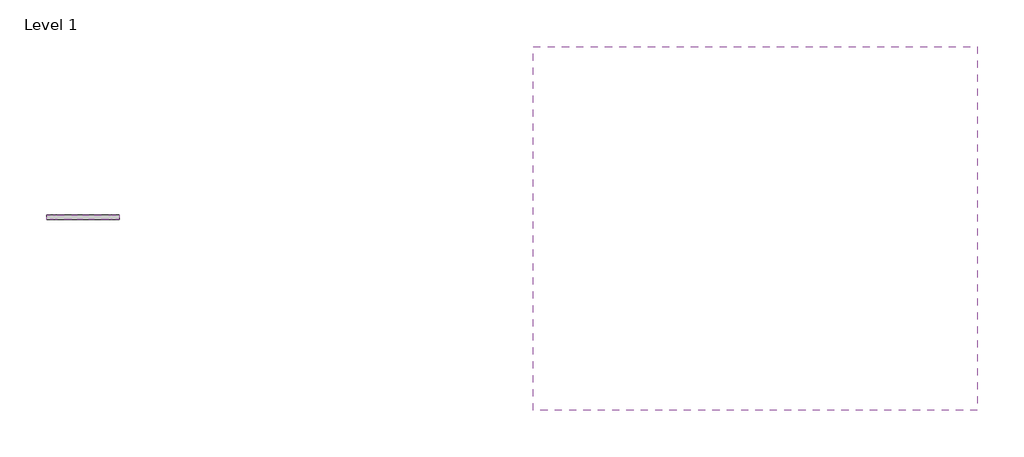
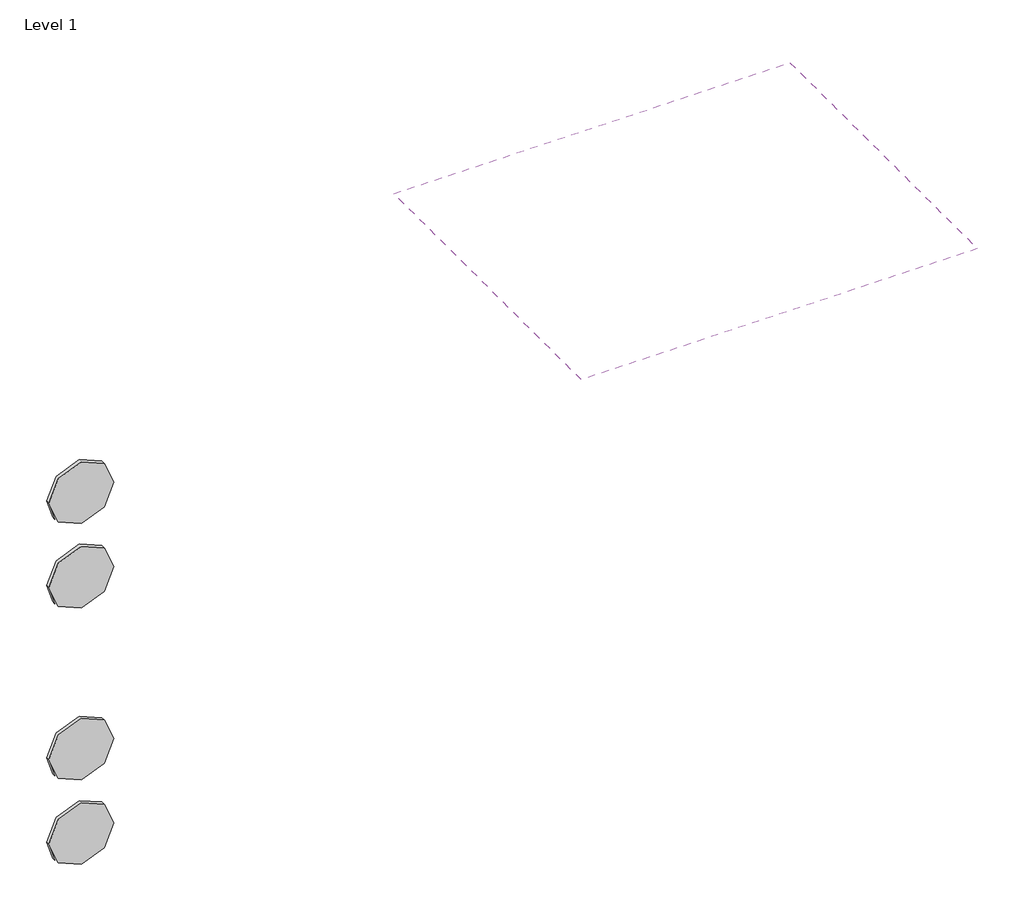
# One storey, incomplete: 4 proxies, 1 covering.
"""IFC4 building model written with IfcOpenShell, lengths in millimetres."""

from ifc_helpers import new_model, si_unit, frame, origin, place, context, project, spatial, polyline, outline, extrude, transform, mapped, element, save
from components import materialmodel_materialmodel_41144b76

model = new_model("IFC4")

# Units and contexts
model_context = context("Model", 3, world=origin())
ifc_project = project(units=[si_unit("LENGTHUNIT", "METRE", prefix="MILLI")], contexts=[model_context])

# Site, building, storey
site = spatial("IfcSite", under=ifc_project)
building = spatial("IfcBuilding", under=site)
storey = spatial("IfcBuildingStorey", under=building, Name="Level 1", Elevation=0.0)

# Proxies
placement = place(None, origin())
materialmodel_materialmodel_shape = materialmodel_materialmodel_41144b76(model_context)
element("IfcBuildingElementProxy", 1, Name="MaterialModel : MaterialModel", ObjectType="MaterialModel : MaterialModel", at=placement, inside=storey, context=model_context, shape_type="MappedRepresentation", body=[
    mapped(materialmodel_materialmodel_shape, transform((-15717.8072231, 6097.5863071, 836.7046249), x_axis=(1.0, 0.0, 0.0), y_axis=(0.0, 1.0, 0.0), z_axis=(0.0, 0.0, 1.0))),
])
element("IfcBuildingElementProxy", 2, Name="MaterialModel : MaterialModel", ObjectType="MaterialModel : MaterialModel", at=placement, inside=storey, context=model_context, shape_type="MappedRepresentation", body=[
    mapped(materialmodel_materialmodel_shape, transform((-15717.8072231, 6097.5863071, 561.7046249), x_axis=(1.0, 0.0, 0.0), y_axis=(0.0, 1.0, 0.0), z_axis=(0.0, 0.0, 1.0))),
])
element("IfcBuildingElementProxy", 3, Name="MaterialModel : MaterialModel", ObjectType="MaterialModel : MaterialModel", at=placement, inside=storey, context=model_context, shape_type="MappedRepresentation", body=[
    mapped(materialmodel_materialmodel_shape, transform((-15717.8072231, 6097.5863071, 1672.218674), x_axis=(1.0, 0.0, 0.0), y_axis=(0.0, 1.0, 0.0), z_axis=(0.0, 0.0, 1.0))),
])
element("IfcBuildingElementProxy", 4, Name="MaterialModel : MaterialModel", ObjectType="MaterialModel : MaterialModel", at=placement, inside=storey, context=model_context, shape_type="MappedRepresentation", body=[
    mapped(materialmodel_materialmodel_shape, transform((-15717.8072231, 6097.5863071, 1397.218674), x_axis=(1.0, 0.0, 0.0), y_axis=(0.0, 1.0, 0.0), z_axis=(0.0, 0.0, 1.0))),
])

# Covering
element("IfcCovering", 5, ObjectType="600 x 1200mm Grid", at=placement, inside=storey, context=model_context, shape_type="SweptSolid", body=[
    extrude(outline(polyline([(-13260.883584, 6561.1087432), (-13260.883584, 5561.1087432), (-14480.883584, 5561.1087432), (-14480.883584, 6561.1087432), (-13260.883584, 6561.1087432)])), frame((0.0, 0.0, 2000.0), z_axis=(0.0, 0.0, 1.0), x_axis=(1.0, 0.0, 0.0)), (0.0, 0.0, 1.0), 52.0),
])

save(model, "model.ifc")
